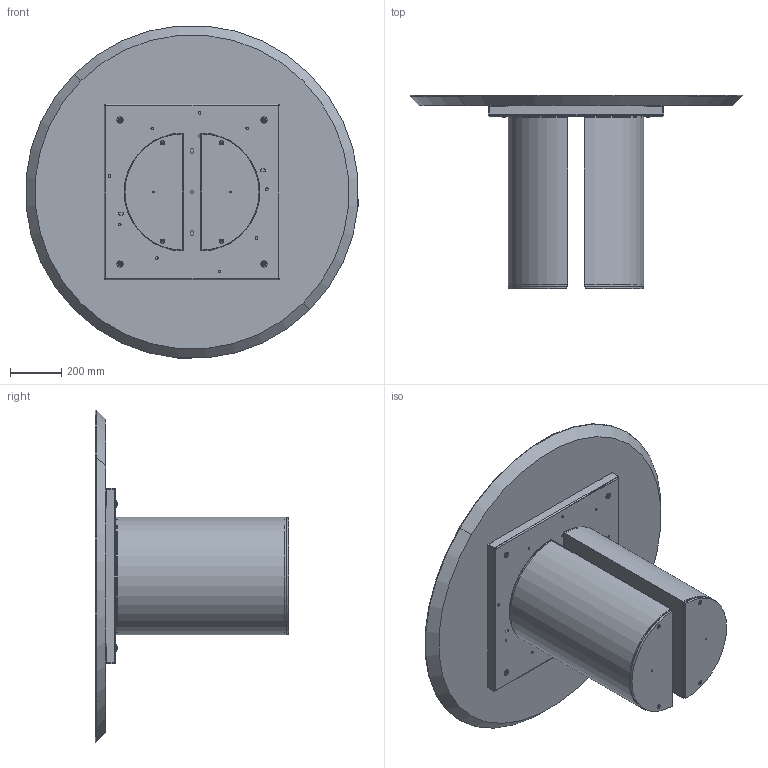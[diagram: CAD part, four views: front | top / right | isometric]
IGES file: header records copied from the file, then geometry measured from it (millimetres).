
Start section: SolidWorks IGES file using analytic representation for surfaces
Global section: file name: Y:\eforma\TECNICO\SOLIDWORKS\E-FORMA\1-TAVOLI\DORA\02 parts\DR05W.IGS; native system: SolidWorks 2022; preprocessor: SolidWorks 2022; author: eforma.tech; date: 240806.145855; units: millimetre
Bounding box: 1295.05 x 754 x 1295.05 mm (x, y, z)
Volume: 58195322.6 mm3; surface area: 7781861.9 mm2
Topology: 28 solids, 28 shells, 864 faces, 2142 edges, 1322 vertices
Faces by surface type: revolution 458, plane 406
